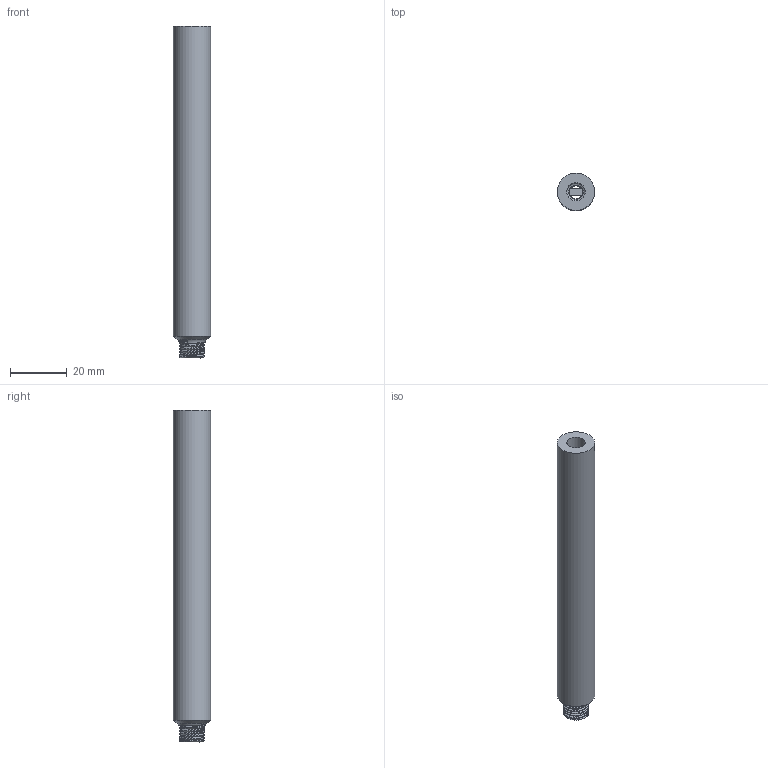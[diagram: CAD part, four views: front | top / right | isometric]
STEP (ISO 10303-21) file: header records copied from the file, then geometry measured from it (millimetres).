
FILE_DESCRIPTION(/* description */ ('STEP AP203'),/* implementation_level */ '2;1');
FILE_NAME(/* name */ 'Hunter_signal_barrel.step',/* time_stamp */ '2025-11-23T21:37:24+03:00',/* author */ (''),/* organization */ (''),/* preprocessor_version */ 'ST-DEVELOPER v20.1',/* originating_system */ 'Autodesk Translation Framework v14.10.0.0',/* authorisation */ '');
FILE_SCHEMA (('AUTOMOTIVE_DESIGN { 1 0 10303 214 3 1 1 }'));
Length unit declared in the file: millimetre
Products named in the file (1): Hunter_signal_shell v1
Bounding box: 13.2 x 13.2 x 117.3 mm (x, y, z)
Volume: 12046.8 mm3; surface area: 7416.9 mm2
Topology: 1 solids, 1 shells, 56 faces, 154 edges, 99 vertices
Faces by surface type: bspline 18, cylinder 16, plane 14, cone 6, torus 2
Full cylindrical faces by diameter (mm): 4.5 x1, 4.853 x1, 6.5 x1, 9.1 x4, 13.199 x1
Entity records: 5660 total; most frequent: CARTESIAN_POINT 4353, ORIENTED_EDGE 308, DIRECTION 204, EDGE_CURVE 154, VERTEX_POINT 99, AXIS2_PLACEMENT_3D 75, B_SPLINE_CURVE_WITH_KNOTS 60, EDGE_LOOP 59
